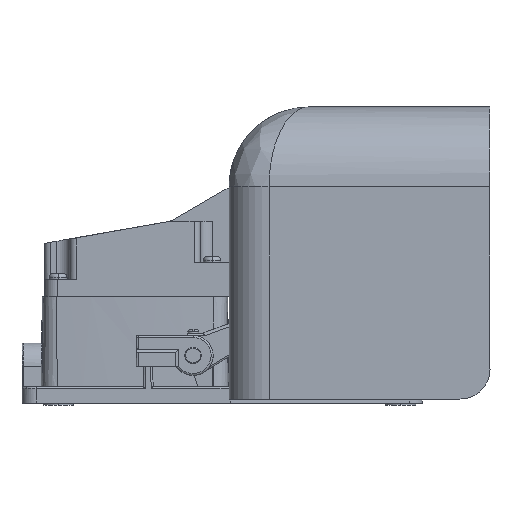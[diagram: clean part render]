
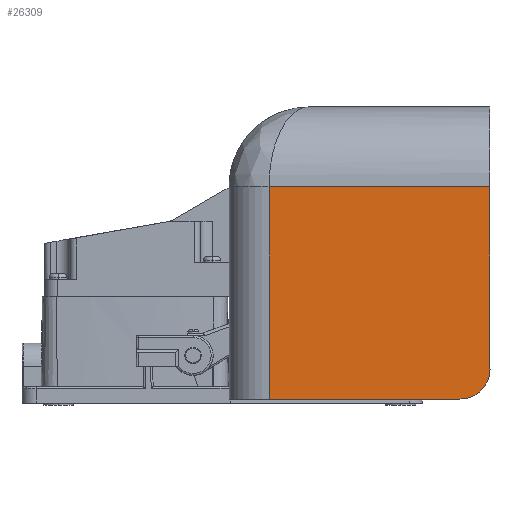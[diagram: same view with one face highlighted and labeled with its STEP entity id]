
A CAD part, left-side view. The second image highlights one B-rep face of the part: STEP entity #26309.
In plain terms, the highlighted planar face has unit normal (-1, 0, 0).
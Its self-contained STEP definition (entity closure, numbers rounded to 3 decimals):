
#3818=CARTESIAN_POINT('',(0.382,15.,
-131.382));
#3819=DIRECTION('',(1.,0.,0.));
#3820=DIRECTION('',(0.,-1.,0.));
#3821=AXIS2_PLACEMENT_3D('',#3818,#3819,#3820);
#3823=DIRECTION('',(0.,1.,0.));
#3824=VECTOR('',#3823,95.4);
#3825=CARTESIAN_POINT('',(0.382,15.,
-146.382));
#3826=LINE('',#3825,#3824);
#3827=DIRECTION('',(0.,0.,-1.));
#3828=VECTOR('',#3827,106.);
#3829=CARTESIAN_POINT('',(0.382,110.4,
-40.382));
#3830=LINE('',#3829,#3828);
#3892=DIRECTION('',(0.,0.,1.));
#3893=VECTOR('',#3892,91.);
#3894=CARTESIAN_POINT('',(0.382,0.,
-131.382));
#3895=LINE('',#3894,#3893);
#3928=DIRECTION('',(0.,1.,0.));
#3929=VECTOR('',#3928,110.4);
#3930=CARTESIAN_POINT('',(0.382,0.,
-40.382));
#3931=LINE('',#3930,#3929);
#17486=CARTESIAN_POINT('',(0.382,110.4,-146.382));
#17488=VERTEX_POINT('',#17486);
#17489=CARTESIAN_POINT('',(0.382,15.,
-146.382));
#17490=VERTEX_POINT('',#17489);
#17492=CARTESIAN_POINT('',(0.382,0.,
-131.382));
#17494=VERTEX_POINT('',#17492);
#17495=CARTESIAN_POINT('',(0.382,0.,
-40.382));
#17496=VERTEX_POINT('',#17495);
#17497=CARTESIAN_POINT('',(0.382,110.4,
-40.382));
#17498=VERTEX_POINT('',#17497);
#26294=CARTESIAN_POINT('',(0.382,55.2,
-93.382));
#26295=DIRECTION('',(1.,0.,0.));
#26296=DIRECTION('',(0.,1.,0.));
#26297=AXIS2_PLACEMENT_3D('',#26294,#26295,#26296);
#26298=PLANE('',#26297);
#26299=ORIENTED_EDGE('',*,*,#26284,.T.);
#26300=ORIENTED_EDGE('',*,*,#26274,.T.);
#26302=ORIENTED_EDGE('',*,*,#26301,.F.);
#26304=ORIENTED_EDGE('',*,*,#26303,.F.);
#26306=ORIENTED_EDGE('',*,*,#26305,.F.);
#26307=EDGE_LOOP('',(#26299,#26300,#26302,#26304,#26306));
#26308=FACE_OUTER_BOUND('',#26307,.F.);
#26309=ADVANCED_FACE('',(#26308),#26298,.F.);
#3822=CIRCLE('',#3821,15.);
#26274=EDGE_CURVE('',#17490,#17488,#3826,.T.);
#26284=EDGE_CURVE('',#17494,#17490,#3822,.T.);
#26301=EDGE_CURVE('',#17498,#17488,#3830,.T.);
#26303=EDGE_CURVE('',#17496,#17498,#3931,.T.);
#26305=EDGE_CURVE('',#17494,#17496,#3895,.T.);
